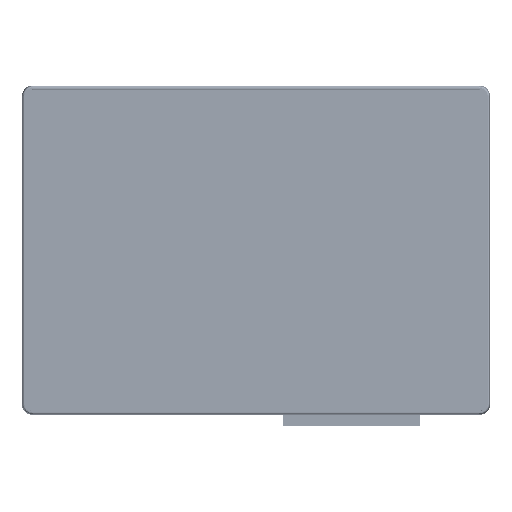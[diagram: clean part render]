
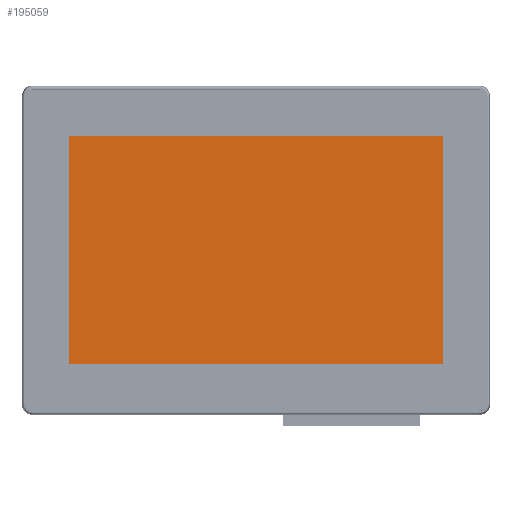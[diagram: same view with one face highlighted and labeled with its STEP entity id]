
A CAD part, top view. The second image highlights one B-rep face of the part: STEP entity #195059.
In plain terms, the highlighted planar face has unit normal (0, 0, 1).
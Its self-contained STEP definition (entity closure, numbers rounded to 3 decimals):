
#8337=PLANE('',#208254);
#17067=FACE_OUTER_BOUND('',#27460,.T.);
#27460=EDGE_LOOP('',(#157112,#157113,#157114,#157115));
#44661=LINE('',#329281,#65583);
#44662=LINE('',#329283,#65584);
#44663=LINE('',#329285,#65585);
#44664=LINE('',#329286,#65586);
#65583=VECTOR('',#245448,109.3);
#65584=VECTOR('',#245449,66.4);
#65585=VECTOR('',#245450,109.3);
#65586=VECTOR('',#245451,66.4);
#88921=VERTEX_POINT('',#329279);
#88922=VERTEX_POINT('',#329280);
#88923=VERTEX_POINT('',#329282);
#88924=VERTEX_POINT('',#329284);
#112921=EDGE_CURVE('',#88921,#88922,#44661,.T.);
#112922=EDGE_CURVE('',#88922,#88923,#44662,.T.);
#112923=EDGE_CURVE('',#88923,#88924,#44663,.T.);
#112924=EDGE_CURVE('',#88924,#88921,#44664,.T.);
#157112=ORIENTED_EDGE('',*,*,#112921,.T.);
#157113=ORIENTED_EDGE('',*,*,#112922,.T.);
#157114=ORIENTED_EDGE('',*,*,#112923,.T.);
#157115=ORIENTED_EDGE('',*,*,#112924,.T.);
#195059=ADVANCED_FACE('',(#17067),#8337,.T.);
#208254=AXIS2_PLACEMENT_3D('',#329278,#245446,#245447);
#245446=DIRECTION('center_axis',(0.,0.,1.));
#245447=DIRECTION('ref_axis',(-1.,0.,0.));
#245448=DIRECTION('',(-1.,0.,0.));
#245449=DIRECTION('',(0.,-1.,0.));
#245450=DIRECTION('',(1.,0.,0.));
#245451=DIRECTION('',(0.,1.,0.));
#329278=CARTESIAN_POINT('Origin',(0.,-2.2,4.9));
#329279=CARTESIAN_POINT('',(54.65,33.2,4.9));
#329280=CARTESIAN_POINT('',(-54.65,33.2,4.9));
#329281=CARTESIAN_POINT('',(54.65,33.2,4.9));
#329282=CARTESIAN_POINT('',(-54.65,-33.2,4.9));
#329283=CARTESIAN_POINT('',(-54.65,33.2,4.9));
#329284=CARTESIAN_POINT('',(54.65,-33.2,4.9));
#329285=CARTESIAN_POINT('',(-54.65,-33.2,4.9));
#329286=CARTESIAN_POINT('',(54.65,-33.2,4.9));
